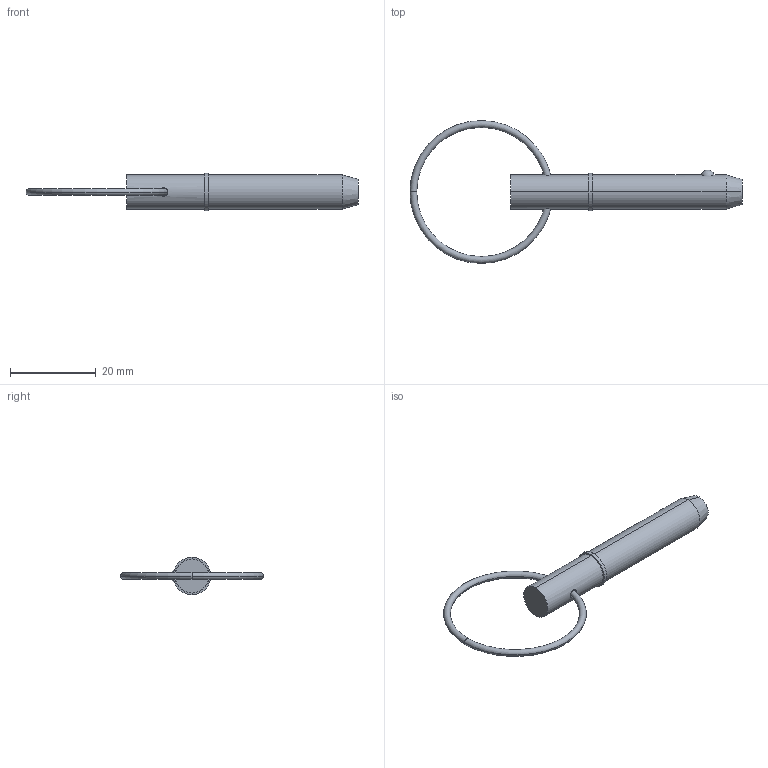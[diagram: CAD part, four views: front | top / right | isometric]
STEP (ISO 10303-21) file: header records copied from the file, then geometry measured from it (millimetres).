
FILE_DESCRIPTION (( 'STEP AP203' ), '1' );
FILE_NAME ('33016.W3110.step', '2024-11-07T11:03:23', ( '' ), ( '' ), 'SwSTEP 2.0', 'SolidWorks 2019', '' );
FILE_SCHEMA (( 'CONFIG_CONTROL_DESIGN' ));
Length unit declared in the file: millimetre
Products named in the file (3): Part2_33016.W3110; 33016.W3110; Part1_33016.W3110
Assembly tree (2 placements, depth 2):
  33016.W3110
    Part1_33016.W3110
    Part2_33016.W3110
Bounding box: 77.52 x 33.34 x 8.73 mm (x, y, z)
Volume: 2817.3 mm3; surface area: 1983.6 mm2
Topology: 2 solids, 2 shells, 22 faces, 43 edges, 26 vertices
Faces by surface type: torus 8, cylinder 6, plane 4, sphere 2, cone 2
Entity records: 989 total; most frequent: CARTESIAN_POINT 212, DIRECTION 120, ORIENTED_EDGE 86, AXIS2_PLACEMENT_3D 56, EDGE_CURVE 43, CIRCLE 29, EDGE_LOOP 27, PERSON_AND_ORGANIZATION 26
